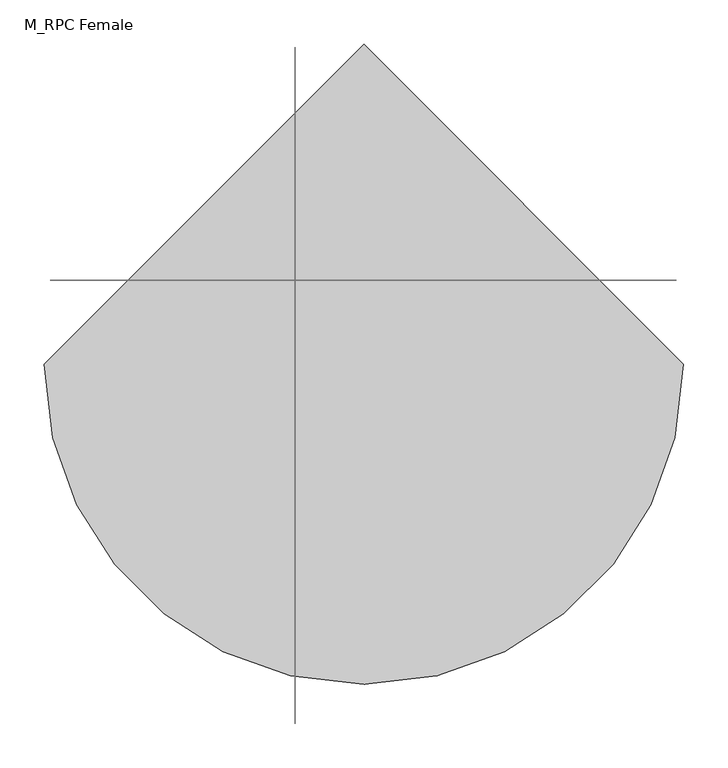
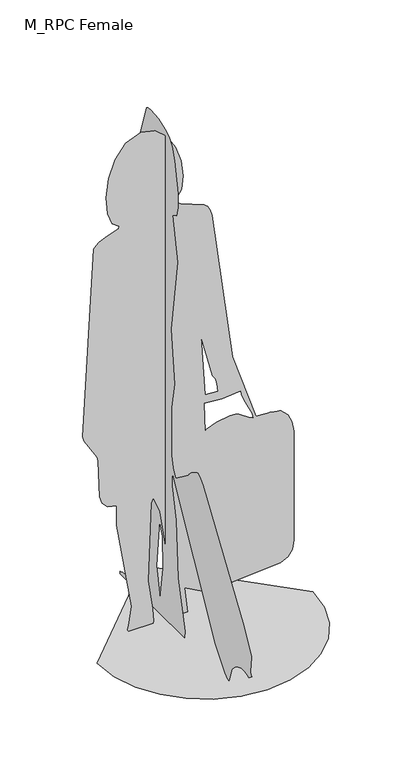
"""IFC4 building model written with IfcOpenShell, lengths in millimetres: proxy geometry, M_RPC Female : Cathy."""

from ifc_helpers import new_model, si_unit, origin, place, context, project, spatial, triangles, source, transform, mapped, element, save


def m_rpc_female_878ef173(model_context):
    return source(origin(), model_context, "Body", "Tessellation", [
        triangles([(53.8898383, 117.4603358, 747.7914923), (98.2196679, 117.4603358, 744.8361494), (95.1081209, 117.4603176, 773.4306976), (89.3746228, 117.4603176, 791.5245787), (80.4877198, 117.4603176, 806.8979136), (42.0685486, 117.4603086, 957.6191643), (111.0217117, 117.4603449, 714.2722446), (50.9345318, 117.4603358, 718.2382816), (53.8898429, 117.4603449, 617.7574236), (59.3183088, 117.4603449, 623.2589773), (93.5172206, 117.4603449, 636.2914667), (138.3303101, 117.4603449, 644.4038349), (157.0264436, 117.4603449, 643.7551826), (169.1473063, 117.4603449, 638.4446783), (200.5938788, 117.4603449, 617.4117325), (207.9951349, 117.4603449, 613.0218115), (213.5514273, 117.4603449, 610.0099314), (216.4324106, 117.4603449, 608.8914677), (214.1224317, 117.4603449, 624.6304779), (191.1442376, 117.4603449, 672.8652517), (182.9985683, 117.4603449, 688.9846167), (177.0412648, 117.4603449, 704.9755011), (174.7312677, 117.4603449, 720.7485209), (-201.8995404, 117.4604085, 0.0), (-204.1571242, 117.4604085, 3.9497842), (-204.9442855, 117.4604085, 7.6373274), (-204.6662138, 117.4604085, 10.9642256), (-203.7279898, 117.4604085, 13.8318444), (-202.5349122, 117.4604085, 16.1416667), (-201.4920253, 117.4604085, 17.7951722), (-201.0044824, 117.4604085, 18.6940715), (-190.828977, 117.4603994, 85.6587976), (-242.182692, 117.460354, 390.4929889), (-241.6421545, 117.4603449, 458.1701806), (-271.5639473, 117.4603449, 465.087818), (-289.7425615, 117.4603449, 483.6791977), (-298.9889993, 117.4603449, 510.7019305), (-302.8727739, 117.4603176, 638.2599512), (-307.2949422, 117.4603176, 654.1493883), (-350.722742, 117.4603176, 724.6059889), (-355.1449648, 117.4603176, 742.1577518), (-318.2957969, 117.460245, 1393.2515854), (-310.2569707, 117.460245, 1402.8329773), (-299.7625713, 117.460245, 1411.0185242), (-287.5347566, 117.460245, 1417.9618504), (-274.2955575, 117.460245, 1423.8161442), (-260.7672771, 117.460245, 1428.7353207), (-247.6718555, 117.460245, 1432.8724228), (-235.7315414, 117.460245, 1436.3809296), (-232.7762167, 117.4602359, 1445.2468128), (-257.0988964, 117.4602359, 1461.5501781), (-272.1356057, 117.4602177, 1503.7727463), (-276.4824334, 117.4602177, 1561.8838795), (-268.7355044, 117.4602177, 1625.85294), (-247.4909617, 117.4602086, 1685.6494354), (-211.3448214, 117.4601905, 1731.241856), (-158.8932265, 117.4601905, 1752.6), (-111.9791842, 117.4602086, 1741.2460419), (-73.5043479, 117.4602177, 1707.6616093), (-44.4949449, 117.4602177, 1659.4346111), (-25.9771685, 117.4602177, 1604.1516483), (-18.9772346, 117.4602359, 1549.4009205), (-24.5213525, 117.460245, 1502.7694645), (-43.6357222, 117.460245, 1471.8447533), (-41.3971643, 117.460245, 1464.7698944), (-35.6109395, 117.460245, 1458.4332172), (-27.6712375, 117.460245, 1452.9626209), (51.276435, 117.460245, 1421.2944958), (57.2815917, 117.460245, 1416.9136585), (62.600167, 117.460245, 1411.6523518), (67.2046597, 117.460245, 1405.3326794), (71.0676189, 117.460245, 1397.7771812), (78.5116503, 117.460254, 1375.7985809), (147.1776171, 117.4603176, 850.6698057), (225.2983847, 117.4603449, 611.8468105), (275.5388137, 117.460354, 608.9837222), (309.4108014, 117.460354, 601.3092633), (332.2617685, 117.4603721, 580.586255), (345.871948, 117.4603721, 550.2653586), (352.0216816, 117.4603721, 513.7975628), (353.4933941, 117.4604176, 128.4620444), (346.9371809, 117.4604176, 99.2247937), (332.6279889, 117.4604176, 77.1089652), (308.0473672, 117.4604176, 65.1126907), (90.3187149, 117.4604176, 47.8453172), (48.0056181, 117.4604176, 54.0576651), (-14.0824787, 117.4603994, 88.7552838), (-4.1152214, 117.4604176, 0.0), (-74.9051435, 117.4604176, 0.0), (-62.2911333, 117.4603994, 156.8197702), (-96.4066154, 117.4603721, 387.4205747), (-115.2693994, 117.460354, 437.4783113), (-119.5504426, 117.460354, 442.4700125), (-126.1975024, 117.460354, 426.9860739), (-137.0054909, 117.4603994, 156.8197702), (-121.113147, 117.4603994, 51.6135511), (-117.2149747, 117.4604085, 8.0698619), (-119.7951406, 117.4604085, 0.0), (-77.8997872, 135.0692083, 282.8198191), (-77.8998054, 130.3114773, 172.9542868), (-77.8998054, 152.666935, 33.5277909), (-77.8997963, 152.9641916, 69.4067782), (-77.8997963, 169.5678293, 157.0970425), (-77.8997872, 150.7276729, 328.1361483), (-77.8998145, 3.0163209, 25.7191991), (-77.8998054, 45.3518648, 189.0513784), (-77.8997963, 55.7880146, 386.7806791), (-77.8997963, 80.3276914, 494.488567), (-77.8997872, 80.5199489, 517.4922137), (-77.8997872, 76.8446373, 540.9191631), (-77.8998145, -171.7708925, 87.0856001), (-77.8998145, -227.9932601, 18.8921949), (-77.8998236, -243.0883417, 6.7222562), (-77.8998236, -252.4887126, 5.452254), (-77.8998145, -269.9436974, 56.8931116), (-77.8998145, -279.0118393, 68.4347354), (-77.8998236, -291.5888515, 78.625724), (-77.8998236, -306.5133039, 86.7939936), (-77.8998236, -322.6234397, 92.2677329), (-77.8998236, -338.7579563, 94.3743994), (-77.8998236, -353.7550424, 92.4425951), (-77.8998327, -366.4532135, 85.8000045), (-77.8998327, -384.1851617, 100.5765735), (-77.8998327, -379.3155098, 104.3952085), (-77.8998327, -377.4683842, 114.2298371), (-77.8998236, -381.8249496, 165.1035306), (-77.8998236, -381.2298552, 168.5488871), (-77.8998145, -338.4702559, 250.651234), (-77.8997963, -99.3683079, 604.619163), (-77.8997963, -81.9905895, 622.8976622), (-77.8997963, -71.65085, 630.1974346), (-77.8997872, -65.9631884, 629.1904467), (-77.8997963, -34.7905, 610.2242352), (-77.8997963, -19.0469808, 595.6349367), (-77.8997963, -17.7255782, 591.1596285), (-77.8997963, 56.157428, 535.0085137), (-77.8997963, 58.1476771, 537.2532895), (-77.8997872, 66.8439441, 552.4633713), (-77.8997872, 72.0572114, 563.5967397), (-77.8997872, 76.8521041, 575.860853), (-77.8997872, 80.4822059, 588.3398515), (-77.8997782, 82.2011599, 600.1177663), (-77.8997782, 81.1851063, 771.341581), (-77.8997782, 63.9151076, 863.048992), (-77.8997691, 84.6023578, 1046.8329048), (-77.8997691, 47.4761219, 1306.3470062), (-77.8997691, 76.8445827, 1454.1129868), (-77.8997691, 53.8794874, 1467.406216), (-77.8997691, 43.4152415, 1502.0613682), (-77.8997691, 43.0932317, 1550.2417122), (-77.8997509, 63.441213, 1655.8304707), (-77.89976, 79.3938912, 1697.5648418), (-77.8997509, 96.0541751, 1721.476609), (-77.8997509, 113.8033461, 1732.016082), (-77.8997509, 158.8977684, 1746.5525494), (-77.8997418, 202.5220496, 1750.8739426), (-77.8997418, 218.4334876, 1748.6439915), (-77.8997418, 227.5582395, 1743.1885105), (-77.8997509, 274.573284, 1600.1668625), (-77.8997418, 278.9162601, 1559.8313885), (-77.8997509, 274.1262909, 1527.2763988), (-77.8997509, 257.1190804, 1507.3087223), (-77.8997509, 224.7027815, 1486.3441589), (-77.8997509, 208.3494555, 1458.8658943), (-77.89976, 210.3774568, 1428.4683311), (-77.89976, 225.4879443, 1396.3826443), (-77.89976, 296.3251358, 1302.3062645), (-77.89976, 310.7764157, 1275.7776512), (-77.8997691, 316.9745112, 1010.797677), (-77.8997691, 316.2255017, 1004.9043594), (-77.8997782, 295.5383015, 481.8127419), (-77.8997782, 293.46688, 480.3784181), (-77.8997782, 269.2362369, 455.7556841), (-77.8997782, 264.2245697, 447.8189229), (-77.8997782, 261.6443493, 440.3457962), (-77.8997872, 237.1922808, 202.61841), (-77.8997872, 242.132259, 157.050352), (-77.8997872, 253.7944106, 116.4614324), (-77.8997872, 322.1361875, 23.7382494), (-77.8997872, 325.7640547, 23.3657181), (-77.8997872, 333.8459015, 21.7296988), (-77.8997872, 344.6726026, 19.2407246), (-77.8997872, 356.5347055, 16.3091608), (-77.8997872, 367.7233758, 13.3450226), (-77.8997782, 376.529052, 10.7590158), (-77.8997782, 381.2426087, 8.961618), (-77.8997782, 381.1268818, 8.1774101), (-77.8997782, 381.0535578, 7.1637053), (-77.8997782, 381.015624, 5.9590209), (-77.8997782, 381.0058136, 4.6018718), (-77.8997782, 381.0171501, 3.1304315), (-77.8997782, 381.0423666, 1.583731), (-77.8997782, 381.0743777, 0.0001143), (-77.8998145, 6.2281815, 0.0001143), (-361.7310817, 22.4542549, 0.0001143), (-352.1680753, -60.4305955, 0.0001143), (-324.9328191, -136.5470796, 0.0002286), (-282.2059939, -203.7143642, 0.0001143), (-226.1686077, -259.7518049, 0.0001143), (-159.0012504, -302.4785029, 0.0001143), (-82.8847755, -329.7138136, 0.0001143), (6.66e-05, -339.2768563, 0.0001143), (82.8849208, -329.7138863, 0.0001143), (159.0013958, -302.4785574, 0.0002286), (226.1686985, -259.7517323, 0.0001143), (282.2061938, -203.7143824, 0.0001143), (324.9328554, -136.5470251, 0.0001143), (352.1681479, -60.4305456, 0.0001143), (361.7311907, 22.4542844, 0.0002286), (3.3e-06, 384.1853797, 0.0001143)], [[1, 2, 8], [34, 1, 8], [34, 8, 9], [87, 88, 89], [87, 89, 90], [7, 8, 2], [97, 98, 24], [96, 97, 24], [96, 24, 25], [96, 25, 26], [96, 26, 27], [96, 27, 28], [96, 28, 29], [96, 29, 30], [96, 30, 31], [96, 31, 32], [95, 96, 32], [95, 32, 33], [95, 33, 34], [94, 95, 34], [93, 94, 34], [93, 34, 9], [92, 93, 9], [1, 34, 35], [1, 35, 36], [1, 36, 37], [1, 37, 38], [1, 38, 39], [6, 1, 39], [6, 39, 40], [6, 40, 41], [6, 41, 42], [6, 42, 43], [6, 43, 44], [6, 44, 45], [6, 45, 46], [6, 46, 47], [6, 47, 48], [6, 48, 49], [91, 92, 9], [6, 49, 50], [7, 2, 3], [23, 7, 3], [50, 51, 52], [56, 57, 58], [56, 58, 59], [55, 56, 59], [55, 59, 60], [54, 55, 60], [54, 60, 61], [53, 54, 61], [53, 61, 62], [52, 53, 62], [50, 52, 62], [50, 62, 63], [50, 63, 64], [6, 50, 64], [6, 64, 65], [6, 65, 66], [6, 66, 67], [6, 67, 68], [6, 68, 69], [6, 69, 70], [6, 70, 71], [6, 71, 72], [6, 72, 73], [5, 6, 73], [5, 73, 74], [4, 5, 74], [3, 4, 74], [23, 3, 74], [23, 74, 75], [22, 23, 75], [21, 22, 75], [20, 21, 75], [19, 20, 75], [18, 19, 75], [90, 91, 9], [87, 90, 9], [86, 87, 9], [85, 86, 9], [84, 85, 9], [83, 84, 9], [82, 83, 9], [81, 82, 9], [80, 81, 9], [79, 80, 9], [78, 79, 9], [77, 78, 9], [18, 75, 76], [12, 13, 14], [11, 12, 14], [11, 14, 15], [10, 11, 15], [9, 10, 15], [9, 15, 16], [9, 16, 17], [9, 17, 18], [77, 9, 18], [77, 18, 76], [100, 101, 106], [122, 123, 124], [100, 106, 107], [99, 100, 107], [104, 99, 107], [105, 106, 101], [194, 105, 101], [193, 194, 101], [192, 193, 101], [191, 192, 101], [190, 191, 101], [189, 190, 101], [188, 189, 101], [187, 188, 101], [186, 187, 101], [185, 186, 101], [184, 185, 101], [183, 184, 101], [182, 183, 101], [181, 182, 101], [180, 181, 101], [179, 180, 101], [178, 179, 101], [178, 101, 102], [177, 178, 102], [177, 102, 103], [176, 177, 103], [175, 176, 103], [175, 103, 104], [121, 122, 124], [113, 114, 115], [112, 113, 115], [111, 112, 115], [121, 124, 125], [175, 104, 107], [175, 107, 108], [174, 175, 108], [174, 108, 109], [173, 174, 109], [173, 109, 110], [172, 173, 110], [111, 115, 116], [170, 171, 172], [170, 172, 110], [120, 121, 125], [120, 125, 126], [111, 116, 117], [111, 117, 118], [110, 111, 118], [110, 118, 119], [110, 119, 120], [110, 120, 126], [110, 126, 127], [110, 127, 128], [130, 131, 132], [147, 148, 149], [129, 130, 132], [129, 132, 133], [129, 133, 134], [129, 134, 135], [129, 135, 136], [128, 129, 136], [110, 128, 136], [110, 136, 137], [110, 137, 138], [170, 110, 138], [170, 138, 139], [170, 139, 140], [170, 140, 141], [170, 141, 142], [170, 142, 143], [170, 143, 144], [170, 144, 145], [169, 170, 145], [168, 169, 145], [167, 168, 145], [167, 145, 146], [166, 167, 146], [165, 166, 146], [164, 165, 146], [164, 146, 147], [164, 147, 149], [164, 149, 150], [163, 164, 150], [163, 150, 151], [162, 163, 151], [161, 162, 151], [160, 161, 151], [159, 160, 151], [159, 151, 152], [159, 152, 153], [159, 153, 154], [159, 154, 155], [159, 155, 156], [158, 159, 156], [158, 156, 157], [209, 210, 195], [208, 209, 195], [208, 195, 196], [207, 208, 196], [207, 196, 197], [207, 197, 198], [206, 207, 198], [205, 206, 198], [205, 198, 199], [205, 199, 200], [205, 200, 201], [205, 201, 202], [205, 202, 203], [205, 203, 204]], closed=False),
    ])


if __name__ == "__main__":
    model = new_model("IFC4")
    model_context = context("Model", 3, world=origin())
    ifc_project = project(units=[si_unit("LENGTHUNIT", "METRE", prefix="MILLI")], contexts=[model_context])
    site = spatial("IfcSite", under=ifc_project)
    building = spatial("IfcBuilding", under=site)
    placement = place(None, origin())
    m_rpc_female_shape = m_rpc_female_878ef173(model_context)
    element("IfcBuildingElementProxy", 1, Name="M_RPC Female : Cathy", ObjectType="M_RPC Female : Cathy", at=placement, inside=building, context=model_context, shape_type="MappedRepresentation", body=[
        mapped(m_rpc_female_shape, transform((0.0, 0.0, 0.0), x_axis=(1.0, 0.0, 0.0), y_axis=(0.0, 1.0, 0.0), z_axis=(0.0, 0.0, 1.0))),
    ])
    save(model, "model.ifc")
